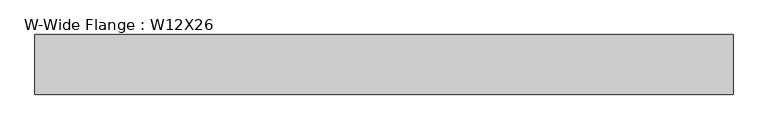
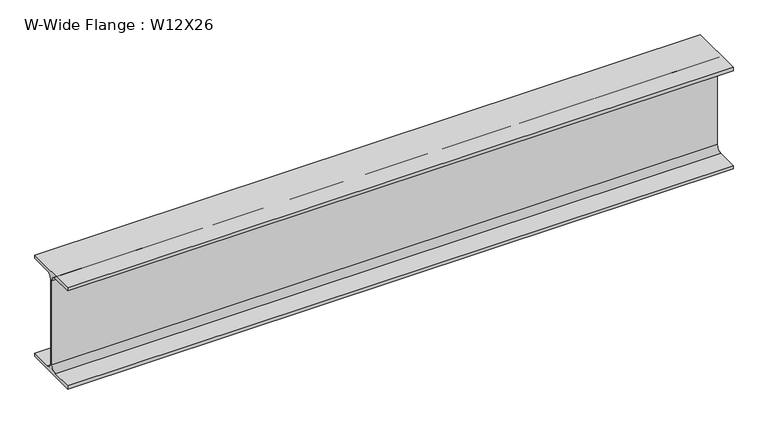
"""IFC4 building model written with IfcOpenShell, lengths in millimetres: beam geometry, W-Wide Flange : W12X26."""

import ifcopenshell
import ifcopenshell.guid

model = None  # the IFC model being written
_history = None  # IfcOwnerHistory: only IFC2X3 demands one
_inside = {}  # id of a spatial element -> (the spatial element, [elements in it])
_under = {}  # id of a project, library or spatial element -> (it, [spatial elements below it])
_declared = {}  # id of a project -> (the project, [libraries it declares])
_typed = {}  # id of a type object -> (the type object, [elements of that type])
_made_of = {}  # id of a material, layer set ... -> (it, [elements and type objects made of it])


def new_model(schema):
    """Start an empty IFC model of exactly this schema.

    Asked for "IFC4X3", IfcOpenShell would pick the latest addendum, in which some entities
    have other attributes; the version numbers below select the first issue.
    IFC2X3 requires an IfcOwnerHistory on every rooted entity: one is made here for all.
    """
    global model, _history
    if schema == "IFC4X3":
        model = ifcopenshell.file(schema_version=(4, 3, 0, 0))
    else:
        model = ifcopenshell.file(schema=schema)
    _inside.clear()
    _under.clear()
    _declared.clear()
    _typed.clear()
    _made_of.clear()
    _history = None
    if model.schema == "IFC2X3":
        org = make("IfcOrganization", Name="unknown")
        user = make(
            "IfcPersonAndOrganization",
            ThePerson=make("IfcPerson", FamilyName="unknown"),
            TheOrganization=org,
        )
        app = make(
            "IfcApplication",
            ApplicationDeveloper=org,
            Version="unknown",
            ApplicationFullName="unknown",
            ApplicationIdentifier="unknown",
        )
        _history = make(
            "IfcOwnerHistory",
            OwningUser=user,
            OwningApplication=app,
            ChangeAction="ADDED",
            CreationDate=0,
        )
    return model


def make(cls, **values):
    """One entity of the class cls with the attributes given. An attribute that is None is left unset."""
    return model.create_entity(
        cls, **{name: value for name, value in values.items() if value is not None}
    )


def rooted(cls, **values):
    """An entity with a GlobalId (a new one), such as an element, a storey or a relation."""
    return make(cls, GlobalId=ifcopenshell.guid.new(), OwnerHistory=_history, **values)


def si_unit(unit_type, name, prefix=None):
    """IfcSIUnit, for example si_unit("LENGTHUNIT", "METRE", prefix="MILLI")."""
    return make("IfcSIUnit", UnitType=unit_type, Prefix=prefix, Name=name)


def assignment(units):
    """IfcUnitAssignment: the units of a project."""
    return None if units is None else make("IfcUnitAssignment", Units=units)


def point(xyz):
    """IfcCartesianPoint."""
    return None if xyz is None else make("IfcCartesianPoint", Coordinates=xyz)


def direction(xyz):
    """IfcDirection."""
    return None if xyz is None else make("IfcDirection", DirectionRatios=xyz)


def frame(location, z_axis=None, x_axis=None):
    """IfcAxis2Placement3D, a coordinate frame: its origin and axes. An axis left out is left unset."""
    return make(
        "IfcAxis2Placement3D",
        Location=point(location),
        Axis=direction(z_axis),
        RefDirection=direction(x_axis),
    )


def frame_2d(location, x_axis=None):
    """IfcAxis2Placement2D, a coordinate frame in the plane: its origin and x axis."""
    return make(
        "IfcAxis2Placement2D", Location=point(location), RefDirection=direction(x_axis)
    )


def origin():
    """The frame at (0, 0, 0) with its axes left unset."""
    return frame((0.0, 0.0, 0.0))


def place(relative_to, where):
    """IfcLocalPlacement: puts the frame where relative to a parent placement (None: the world)."""
    return make(
        "IfcLocalPlacement", PlacementRelTo=relative_to, RelativePlacement=where
    )


def context(
    kind, dimensions, precision=None, world=None, true_north=None, identifier=None
):
    """IfcGeometricRepresentationContext, for example the 3D "Model" context."""
    return make(
        "IfcGeometricRepresentationContext",
        ContextIdentifier=identifier,
        ContextType=kind,
        CoordinateSpaceDimension=dimensions,
        Precision=precision,
        WorldCoordinateSystem=world,
        TrueNorth=true_north,
    )


def project(units=None, contexts=None):
    """IfcProject with its units and contexts."""
    return rooted(
        "IfcProject",
        Name="project",
        RepresentationContexts=contexts,
        UnitsInContext=assignment(units),
    )


def spatial(cls, under=None, at=None, **own):
    """A site, building, storey or space (cls), placed at a placement, below another one or the project."""
    s = rooted(cls, ObjectPlacement=at, **own)
    if under is not None:
        _under.setdefault(under.id(), (under, []))[1].append(s)
    return s


def polyline(points):
    """IfcPolyline through the points."""
    return make("IfcPolyline", Points=[point(p) for p in points])


def circle_curve(where, radius):
    """IfcCircle in the frame where."""
    return make("IfcCircle", Position=where, Radius=radius)


def trimmed(basis, trim1, trim2, sense, master):
    """IfcTrimmedCurve: the piece of a basis curve between two trims."""
    return make(
        "IfcTrimmedCurve",
        BasisCurve=basis,
        Trim1=trim1,
        Trim2=trim2,
        SenseAgreement=sense,
        MasterRepresentation=master,
    )


def segment(curve, same_sense, transition):
    """IfcCompositeCurveSegment."""
    return make(
        "IfcCompositeCurveSegment",
        Transition=transition,
        SameSense=same_sense,
        ParentCurve=curve,
    )


def composite_curve(segments, self_intersect=None):
    """IfcCompositeCurve: segments joined end to end."""
    return make("IfcCompositeCurve", Segments=segments, SelfIntersect=self_intersect)


def outline(outer, holes=None, kind="AREA"):
    """IfcArbitraryClosedProfileDef: a profile drawn as a closed curve; with holes, ...WithVoids."""
    if holes is None:
        return make("IfcArbitraryClosedProfileDef", ProfileType=kind, OuterCurve=outer)
    return make(
        "IfcArbitraryProfileDefWithVoids",
        ProfileType=kind,
        OuterCurve=outer,
        InnerCurves=holes,
    )


def extrude(swept, where, along, depth):
    """IfcExtrudedAreaSolid: the profile swept, set in the frame where, extruded along a direction by depth."""
    return make(
        "IfcExtrudedAreaSolid",
        SweptArea=swept,
        Position=where,
        ExtrudedDirection=direction(along),
        Depth=depth,
    )


def shape(context_of_items, identifier, shape_type, items):
    """IfcShapeRepresentation: the items that make up one representation, for example the "Body"."""
    return make(
        "IfcShapeRepresentation",
        ContextOfItems=context_of_items,
        RepresentationIdentifier=identifier,
        RepresentationType=shape_type,
        Items=items,
    )


def source(mapping_origin, context_of_items, identifier, shape_type, items):
    """IfcRepresentationMap: a shape defined once, which mapped items show again and again."""
    return make(
        "IfcRepresentationMap",
        MappingOrigin=mapping_origin,
        MappedRepresentation=shape(context_of_items, identifier, shape_type, items),
    )


def transform(
    local_origin,
    x_axis=None,
    y_axis=None,
    z_axis=None,
    scale=None,
    scale2=None,
    scale3=None,
    uniform=True,
):
    """IfcCartesianTransformationOperator3D, or its non-uniform kind. x_axis, y_axis, z_axis: its Axis1, 2, 3."""
    if uniform:
        return make(
            "IfcCartesianTransformationOperator3D",
            Axis1=direction(x_axis),
            Axis2=direction(y_axis),
            LocalOrigin=point(local_origin),
            Scale=scale,
            Axis3=direction(z_axis),
        )
    return make(
        "IfcCartesianTransformationOperator3DnonUniform",
        Axis1=direction(x_axis),
        Axis2=direction(y_axis),
        LocalOrigin=point(local_origin),
        Scale=scale,
        Axis3=direction(z_axis),
        Scale2=scale2,
        Scale3=scale3,
    )


def mapped(mapping_source, mapping_target):
    """IfcMappedItem: shows the shape of a source again, moved by a transform."""
    return make(
        "IfcMappedItem", MappingSource=mapping_source, MappingTarget=mapping_target
    )


def made_of(thing, what):
    """Note that an element or type object is made of a material, layer set ...; save() writes the relation."""
    if what is not None:
        _made_of.setdefault(what.id(), (what, []))[1].append(thing)
    return thing


def element(
    cls,
    number,
    at=None,
    inside=None,
    cuts=None,
    type_object=None,
    material=None,
    context=None,
    identifier="Body",
    shape_type=None,
    held_by="IfcProductDefinitionShape",
    body=None,
    shapes=None,
    **own,
):
    """One element of the class cls, such as IfcWall. Its Tag is "e" and its number.

    at: its placement. inside: the storey or other place that contains it. cuts: it is an
    opening in that element (IfcRelVoidsElement). A single representation is given by context,
    identifier, shape_type and body (its items); several are given by shapes. held_by: the class
    of the entity that holds the representations. save() writes the other relations.
    """
    e = rooted(cls, Tag="e%d" % number, ObjectPlacement=at, **own)
    if body is not None:
        shapes = [shape(context, identifier, shape_type, body)]
    if shapes is not None:
        e.Representation = make(held_by, Representations=shapes)
    if inside is not None:
        _inside.setdefault(inside.id(), (inside, []))[1].append(e)
    if cuts is not None:
        rooted(
            "IfcRelVoidsElement", RelatingBuildingElement=cuts, RelatedOpeningElement=e
        )
    if type_object is not None:
        _typed.setdefault(type_object.id(), (type_object, []))[1].append(e)
    return made_of(e, material)


def aggregate(whole, parts):
    """IfcRelAggregates: a whole, such as a stair, and the parts it consists of."""
    return rooted("IfcRelAggregates", RelatingObject=whole, RelatedObjects=parts)


def save(model, path):
    """Write the relations noted so far, then the file.

    IfcRelAggregates (storeys below a building ...), IfcRelContainedInSpatialStructure (elements
    in a storey), IfcRelDefinesByType, IfcRelAssociatesMaterial and IfcRelDeclares: one each for
    every whole, place, type object, material and project.
    """
    for whole, parts in _under.values():
        aggregate(whole, parts)
    for where, things in _inside.values():
        rooted(
            "IfcRelContainedInSpatialStructure",
            RelatedElements=things,
            RelatingStructure=where,
        )
    for kind, things in _typed.values():
        rooted("IfcRelDefinesByType", RelatedObjects=things, RelatingType=kind)
    for what, things in _made_of.values():
        rooted("IfcRelAssociatesMaterial", RelatedObjects=things, RelatingMaterial=what)
    for by, libraries in _declared.values():
        rooted("IfcRelDeclares", RelatingContext=by, RelatedDefinitions=libraries)
    model.write(path)


def w_wide_flange_w12x26_da9b0925(model_context):
    return source(origin(), model_context, "Body", "SweptSolid", [
        extrude(outline(composite_curve([segment(polyline([(82.4011719, -145.5539063), (82.4011719, -155.178125), (-82.4011719, -155.178125), (-82.4011719, -145.5539063), (-20.2902344, -145.5539063)]), True, "CONTINUOUS"), segment(trimmed(circle_curve(frame_2d((-20.2902344, -128.190625)), 17.3632812), [point((-20.2902344, -145.5539063))], [point((-2.9269531, -128.190625))], True, "CARTESIAN"), True, "CONTINUOUS"), segment(polyline([(-2.9269531, -128.190625), (-2.9269531, 128.190625)]), True, "CONTINUOUS"), segment(trimmed(circle_curve(frame_2d((-20.2902344, 128.190625)), 17.3632812), [point((-2.9269531, 128.190625))], [point((-20.2902344, 145.5539062))], True, "CARTESIAN"), True, "CONTINUOUS"), segment(polyline([(-20.2902344, 145.5539062), (-82.4011719, 145.5539062), (-82.4011719, 155.178125), (82.4011719, 155.178125), (82.4011719, 145.5539062), (20.2902344, 145.5539062)]), True, "CONTINUOUS"), segment(trimmed(circle_curve(frame_2d((20.2902344, 128.190625)), 17.3632812), [point((20.2902344, 145.5539062))], [point((2.9269531, 128.190625))], True, "CARTESIAN"), True, "CONTINUOUS"), segment(polyline([(2.9269531, 128.190625), (2.9269531, -128.190625)]), True, "CONTINUOUS"), segment(trimmed(circle_curve(frame_2d((20.2902344, -128.190625)), 17.3632812), [point((2.9269531, -128.190625))], [point((20.2902344, -145.5539063))], True, "CARTESIAN"), True, "CONTINUOUS"), segment(polyline([(20.2902344, -145.5539063), (82.4011719, -145.5539063)]), True, "CONTINUOUS")], self_intersect=False)), frame((-862.5530744, 0.0, 0.0), z_axis=(1.0, 0.0, 0.0), x_axis=(0.0, 1.0, 0.0)), (0.0, 0.0, 1.0), 1930.5599281),
    ])


if __name__ == "__main__":
    model = new_model("IFC4")
    model_context = context("Model", 3, world=origin())
    ifc_project = project(units=[si_unit("LENGTHUNIT", "METRE", prefix="MILLI")], contexts=[model_context])
    site = spatial("IfcSite", under=ifc_project)
    building = spatial("IfcBuilding", under=site)
    placement = place(None, origin())
    w_wide_flange_w12x26_shape = w_wide_flange_w12x26_da9b0925(model_context)
    element("IfcBeam", 1, ObjectType="W-Wide Flange : W12X26", at=placement, inside=building, context=model_context, shape_type="MappedRepresentation", body=[
        mapped(w_wide_flange_w12x26_shape, transform((0.0, 0.0, 0.0), x_axis=(1.0, 0.0, 0.0), y_axis=(0.0, 1.0, 0.0), z_axis=(0.0, 0.0, 1.0))),
    ])
    save(model, "model.ifc")
